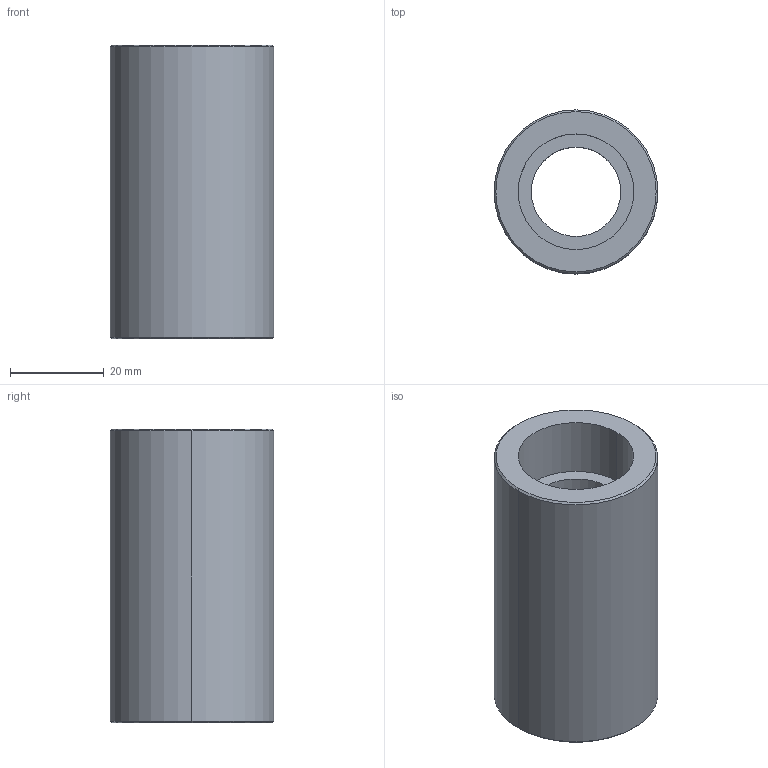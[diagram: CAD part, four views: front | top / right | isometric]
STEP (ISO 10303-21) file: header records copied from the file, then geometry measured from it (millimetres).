
FILE_DESCRIPTION (( 'STEP AP214' ), '1' );
FILE_NAME ('BTQ-19-CL-CF.STEP', '2014-01-15T20:25:24', ( '' ), ( '' ), 'SwSTEP 2.0', 'SolidWorks 2014', '' );
FILE_SCHEMA (( 'AUTOMOTIVE_DESIGN' ));
Length unit declared in the file: inch
Products named in the file (1): BTQ-19-CL-CF
Bounding box: 34.92 x 34.92 x 62.61 mm (x, y, z)
Volume: 36854.8 mm3; surface area: 12249.3 mm2
Topology: 1 solids, 1 shells, 25 faces, 50 edges, 30 vertices
Faces by surface type: cone 10, cylinder 10, plane 5
Entity records: 776 total; most frequent: DIRECTION 132, CARTESIAN_POINT 106, ORIENTED_EDGE 100, AXIS2_PLACEMENT_3D 56, EDGE_CURVE 50, EDGE_LOOP 30, CIRCLE 30, VERTEX_POINT 30
